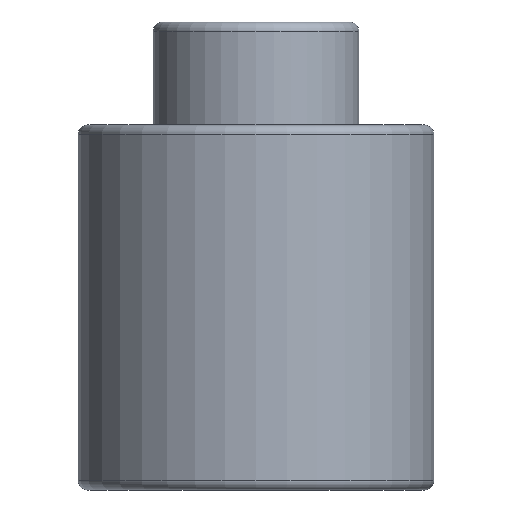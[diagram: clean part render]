
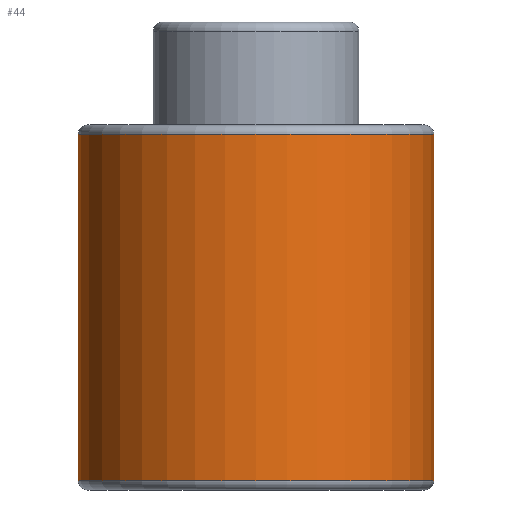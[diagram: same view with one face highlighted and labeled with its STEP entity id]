
A CAD part, front view. The second image highlights one B-rep face of the part: STEP entity #44.
In plain terms, the highlighted cylindrical face has radius 19 mm (diameter 38 mm), a full revolution.
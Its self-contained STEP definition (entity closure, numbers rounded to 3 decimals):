
#44=ADVANCED_FACE('',(#60,#61),#56,.T.);
#56=CYLINDRICAL_SURFACE('',#166,19.);
#60=FACE_BOUND('',#84,.T.);
#61=FACE_BOUND('',#85,.T.);
#84=EDGE_LOOP('',(#106));
#85=EDGE_LOOP('',(#107));
#106=ORIENTED_EDGE('',*,*,#141,.F.);
#107=ORIENTED_EDGE('',*,*,#142,.T.);
#128=VERTEX_POINT('',#237);
#129=VERTEX_POINT('',#239);
#141=EDGE_CURVE('',#128,#128,#152,.T.);
#142=EDGE_CURVE('',#129,#129,#153,.T.);
#152=CIRCLE('',#164,19.);
#153=CIRCLE('',#165,19.);
#164=AXIS2_PLACEMENT_3D('',#236,#189,#190);
#165=AXIS2_PLACEMENT_3D('',#238,#191,#192);
#166=AXIS2_PLACEMENT_3D('',#240,#193,#194);
#189=DIRECTION('',(0.,0.,-1.));
#190=DIRECTION('',(-1.,0.,0.));
#191=DIRECTION('',(0.,0.,-1.));
#192=DIRECTION('',(-1.,0.,0.));
#193=DIRECTION('',(0.,0.,-1.));
#194=DIRECTION('',(-1.,0.,0.));
#236=CARTESIAN_POINT('',(0.,0.,1.));
#237=CARTESIAN_POINT('',(-19.,0.,1.));
#238=CARTESIAN_POINT('',(0.,0.,38.));
#239=CARTESIAN_POINT('',(-19.,0.,38.));
#240=CARTESIAN_POINT('',(0.,0.,0.));
